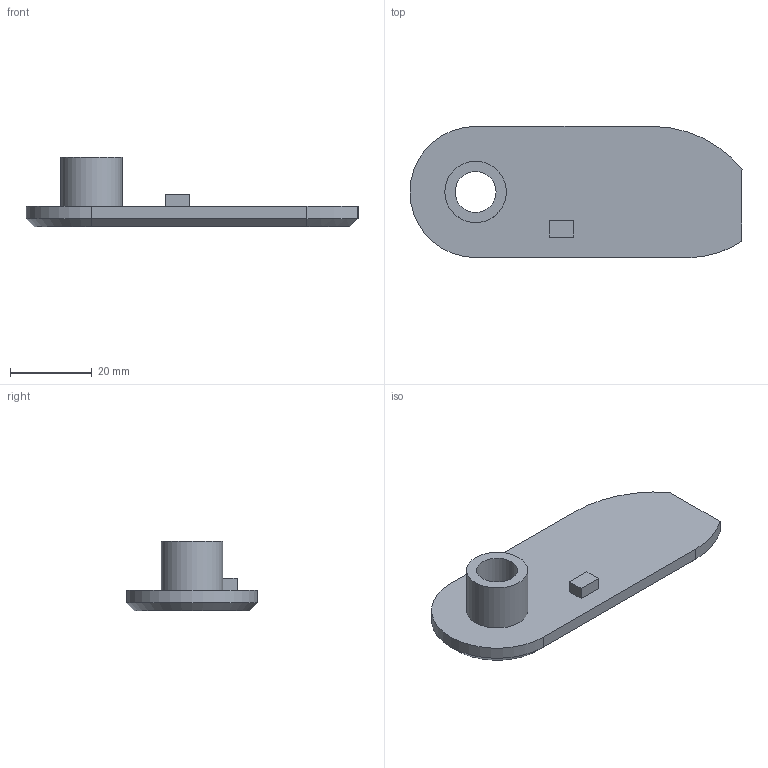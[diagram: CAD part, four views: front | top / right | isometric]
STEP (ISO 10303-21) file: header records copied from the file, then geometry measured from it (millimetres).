
FILE_DESCRIPTION (( 'STEP AP214' ), '1' );
FILE_NAME ('L21753G.step', '2024-12-03T16:25:29', ( '' ), ( '' ), 'SwSTEP 2.0', 'SolidWorks 2023', '' );
FILE_SCHEMA (( 'AUTOMOTIVE_DESIGN' ));
Length unit declared in the file: millimetre
Products named in the file (1): L21753G
Bounding box: 81 x 32 x 17 mm (x, y, z)
Volume: 12423.2 mm3; surface area: 6543.6 mm2
Topology: 1 solids, 1 shells, 23 faces, 50 edges, 31 vertices
Faces by surface type: plane 14, cylinder 5, cone 4
Full cylindrical faces by diameter (mm): 10 x1, 15 x1
Entity records: 637 total; most frequent: CARTESIAN_POINT 111, DIRECTION 106, ORIENTED_EDGE 94, EDGE_CURVE 47, AXIS2_PLACEMENT_3D 38, VERTEX_POINT 31, VECTOR 30, LINE 30
